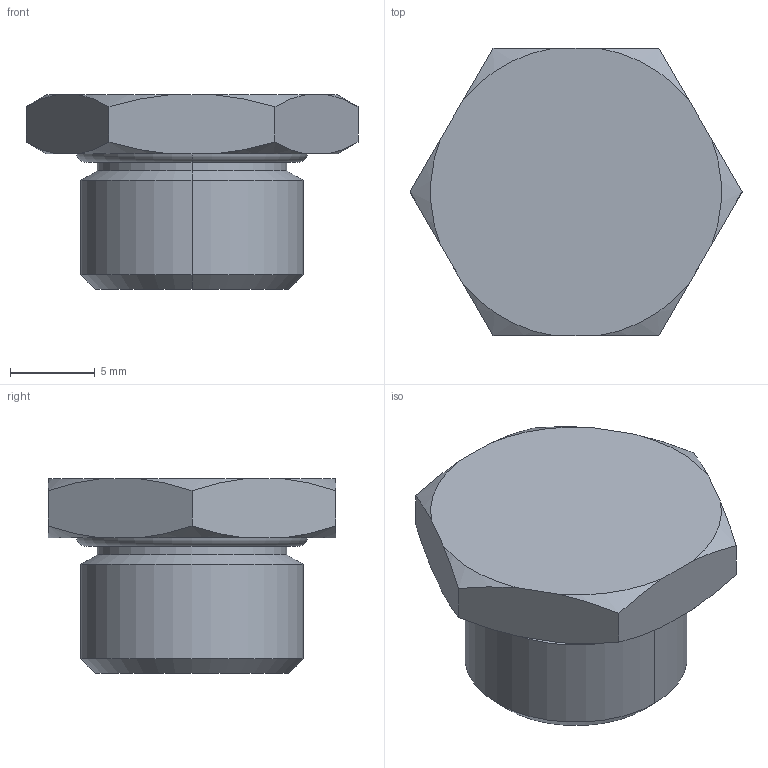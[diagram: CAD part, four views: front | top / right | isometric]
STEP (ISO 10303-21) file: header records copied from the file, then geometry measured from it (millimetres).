
FILE_DESCRIPTION((''),'2;1');
FILE_NAME('R412010683','2015-06-23T',('vol1hc'),(''),'PRO/ENGINEER BY PARAMETRIC TECHNOLOGY CORPORATION, 2012421','PRO/ENGINEER BY PARAMETRIC TECHNOLOGY CORPORATION, 2012421','');
FILE_SCHEMA(('CONFIG_CONTROL_DESIGN','SHAPE_APPEARANCE_LAYERS_GROUPS'));
Length unit declared in the file: millimetre
Products named in the file (1): R412010683
Bounding box: 19.63 x 17 x 11.5 mm (x, y, z)
Volume: 1913.6 mm3; surface area: 1040.4 mm2
Topology: 1 solids, 1 shells, 32 faces, 78 edges, 50 vertices
Faces by surface type: cone 16, plane 10, cylinder 4, torus 2
Entity records: 1104 total; most frequent: CARTESIAN_POINT 320, ORIENTED_EDGE 156, DIRECTION 146, EDGE_CURVE 78, AXIS2_PLACEMENT_3D 60, VERTEX_POINT 50, EDGE_LOOP 34, FACE_OUTER_BOUND 32
